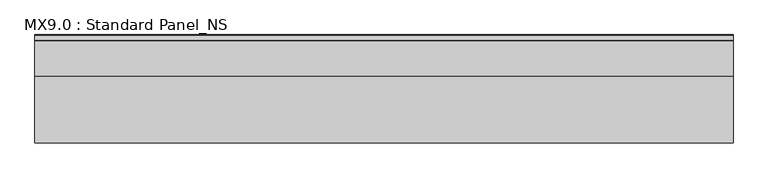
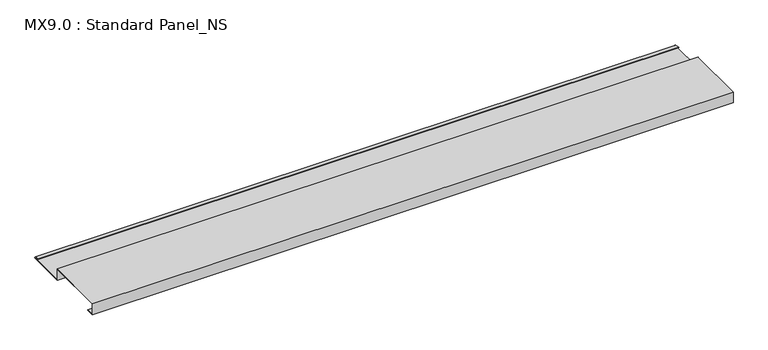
"""IFC4 building model written with IfcOpenShell, lengths in millimetres: proxy geometry, MX9.0 : Standard Panel_NS."""

from ifc_helpers import new_model, si_unit, point, frame, frame_2d, origin, place, context, project, spatial, polyline, circle_curve, trimmed, segment, composite_curve, outline, extrude, source, transform, mapped, element, save


def mx9_0_standard_panel_ns_4979d104(model_context):
    return source(origin(), model_context, "Body", "SweptSolid", [
        extrude(outline(composite_curve([segment(polyline([(0.0, 0.0), (0.0, 38.0), (200.0, 38.0), (200.0, 0.0), (324.8317866, 0.0)]), True, "CONTINUOUS"), segment(trimmed(circle_curve(frame_2d((324.3094696, 0.9153551)), 1.0538928), [point((324.8317866, 0.0))], [point((324.8448691, 1.8231201))], True, "CARTESIAN"), True, "CONTINUOUS"), segment(polyline([(324.8448691, 1.8231201), (308.5989911, 4.94103), (308.7874714, 5.923107), (325.1748462, 2.778041)]), True, "CONTINUOUS"), segment(trimmed(circle_curve(frame_2d((324.3094696, 0.9153551)), 2.0538928), [point((325.1748462, 2.778041))], [point((325.0510156, -1.0))], False, "CARTESIAN"), True, "CONTINUOUS"), segment(polyline([(325.0510156, -1.0), (199.0, -1.0), (199.0, 37.0), (1.0, 37.0), (1.0, 1.0), (25.0, 1.0), (25.0, 0.0), (0.0, 0.0)]), True, "CONTINUOUS")], self_intersect=False)), frame((0.0, 0.0, 0.0), z_axis=(1.0, 0.0, 0.0), x_axis=(0.0, 1.0, 0.0)), (0.0, 0.0, 1.0), 2100.0),
    ])


if __name__ == "__main__":
    model = new_model("IFC4")
    model_context = context("Model", 3, world=origin())
    ifc_project = project(units=[si_unit("LENGTHUNIT", "METRE", prefix="MILLI")], contexts=[model_context])
    site = spatial("IfcSite", under=ifc_project)
    building = spatial("IfcBuilding", under=site)
    placement = place(None, origin())
    mx9_0_standard_panel_ns_shape = mx9_0_standard_panel_ns_4979d104(model_context)
    element("IfcBuildingElementProxy", 1, Name="MX9.0 : Standard Panel_NS", ObjectType="MX9.0 : Standard Panel_NS", at=placement, inside=building, context=model_context, shape_type="MappedRepresentation", body=[
        mapped(mx9_0_standard_panel_ns_shape, transform((0.0, 0.0, 0.0), x_axis=(1.0, 0.0, 0.0), y_axis=(0.0, 1.0, 0.0), z_axis=(0.0, 0.0, 1.0))),
    ])
    save(model, "model.ifc")
